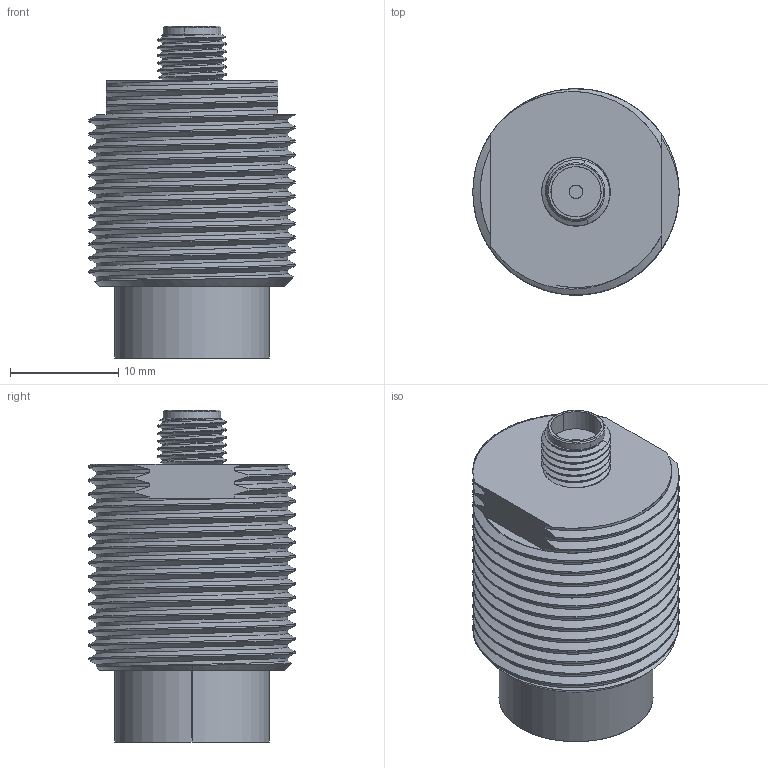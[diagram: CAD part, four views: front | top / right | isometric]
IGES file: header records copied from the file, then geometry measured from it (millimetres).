
Start section: SolidWorks IGES file using analytic representation for surfaces
Global section: file name: C:\Documents and Settings\Administrator\My Documents\EDI\3D\finished sensors\6U1.IGS; native system: SolidWorks 2008; preprocessor: SolidWorks 2008; author: Administrator; date: 100304.193935; units: millimetre
Bounding box: 19.05 x 19.05 x 30.65 mm (x, y, z)
Surface area: 2864.6 mm2 (no closed solid volume)
Topology: 0 solids, 0 shells, 275 faces, 2801 edges, 2801 vertices
Faces by surface type: revolution 179, bspline 96
